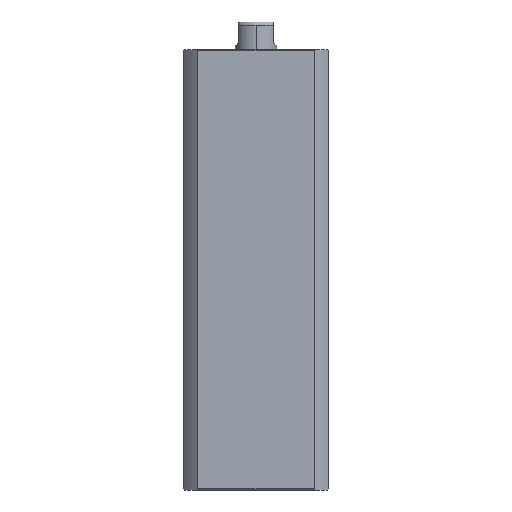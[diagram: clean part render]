
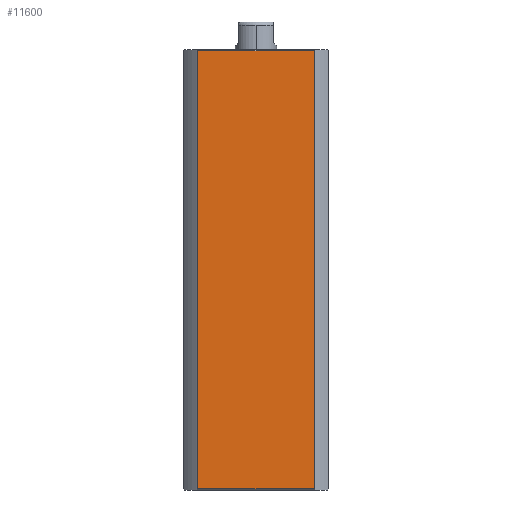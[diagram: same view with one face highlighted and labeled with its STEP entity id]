
A CAD part, left-side view. The second image highlights one B-rep face of the part: STEP entity #11600.
In plain terms, the highlighted planar face has unit normal (-1, 0, 0).
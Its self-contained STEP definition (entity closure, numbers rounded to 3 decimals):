
#562 = LINE ( 'NONE', #9312, #2730 ) ;
#1166 = VERTEX_POINT ( 'NONE', #11085 ) ;
#1345 = LINE ( 'NONE', #2659, #10641 ) ;
#1516 = LINE ( 'NONE', #10916, #3688 ) ;
#1559 = EDGE_CURVE ( 'NONE', #11604, #8905, #11324, .T. ) ;
#1893 = PLANE ( 'NONE',  #2657 ) ;
#1970 = DIRECTION ( 'NONE',  ( 0., 1., 0. ) ) ;
#2201 = CARTESIAN_POINT ( 'NONE',  ( -21., 16.971, 127.7 ) ) ;
#2396 = ORIENTED_EDGE ( 'NONE', *, *, #4570, .F. ) ;
#2657 = AXIS2_PLACEMENT_3D ( 'NONE', #6466, #4525, #8307 ) ;
#2659 = CARTESIAN_POINT ( 'NONE',  ( -21., 16.971, -172. ) ) ;
#2730 = VECTOR ( 'NONE', #1970, 1000. ) ;
#3263 = EDGE_CURVE ( 'NONE', #11604, #9302, #1345, .T. ) ;
#3603 = DIRECTION ( 'NONE',  ( 0., 0., 1. ) ) ;
#3688 = VECTOR ( 'NONE', #9847, 1000. ) ;
#4076 = CARTESIAN_POINT ( 'NONE',  ( -21., 21., 0.3 ) ) ;
#4274 = DIRECTION ( 'NONE',  ( 0., -1., 0. ) ) ;
#4525 = DIRECTION ( 'NONE',  ( 1., 0., 0. ) ) ;
#4570 = EDGE_CURVE ( 'NONE', #1166, #8905, #1516, .T. ) ;
#4843 = ORIENTED_EDGE ( 'NONE', *, *, #1559, .T. ) ;
#5175 = EDGE_LOOP ( 'NONE', ( #9734, #4843, #2396, #12116 ) ) ;
#6255 = VECTOR ( 'NONE', #4274, 1000. ) ;
#6466 = CARTESIAN_POINT ( 'NONE',  ( -21., 21., 128. ) ) ;
#7097 = CARTESIAN_POINT ( 'NONE',  ( -21., -16.971, 0.3 ) ) ;
#8307 = DIRECTION ( 'NONE',  ( 0., 1., 0. ) ) ;
#8905 = VERTEX_POINT ( 'NONE', #7097 ) ;
#9248 = CARTESIAN_POINT ( 'NONE',  ( -21., 16.971, 0.3 ) ) ;
#9302 = VERTEX_POINT ( 'NONE', #2201 ) ;
#9312 = CARTESIAN_POINT ( 'NONE',  ( -21., 21., 127.7 ) ) ;
#9464 = FACE_OUTER_BOUND ( 'NONE', #5175, .T. ) ;
#9734 = ORIENTED_EDGE ( 'NONE', *, *, #3263, .F. ) ;
#9847 = DIRECTION ( 'NONE',  ( 0., 0., -1. ) ) ;
#10641 = VECTOR ( 'NONE', #3603, 1000. ) ;
#10916 = CARTESIAN_POINT ( 'NONE',  ( -21., -16.971, -172. ) ) ;
#11085 = CARTESIAN_POINT ( 'NONE',  ( -21., -16.971, 127.7 ) ) ;
#11266 = EDGE_CURVE ( 'NONE', #1166, #9302, #562, .T. ) ;
#11324 = LINE ( 'NONE', #4076, #6255 ) ;
#11600 = ADVANCED_FACE ( 'NONE', ( #9464 ), #1893, .F. ) ;
#11604 = VERTEX_POINT ( 'NONE', #9248 ) ;
#12116 = ORIENTED_EDGE ( 'NONE', *, *, #11266, .T. ) ;
